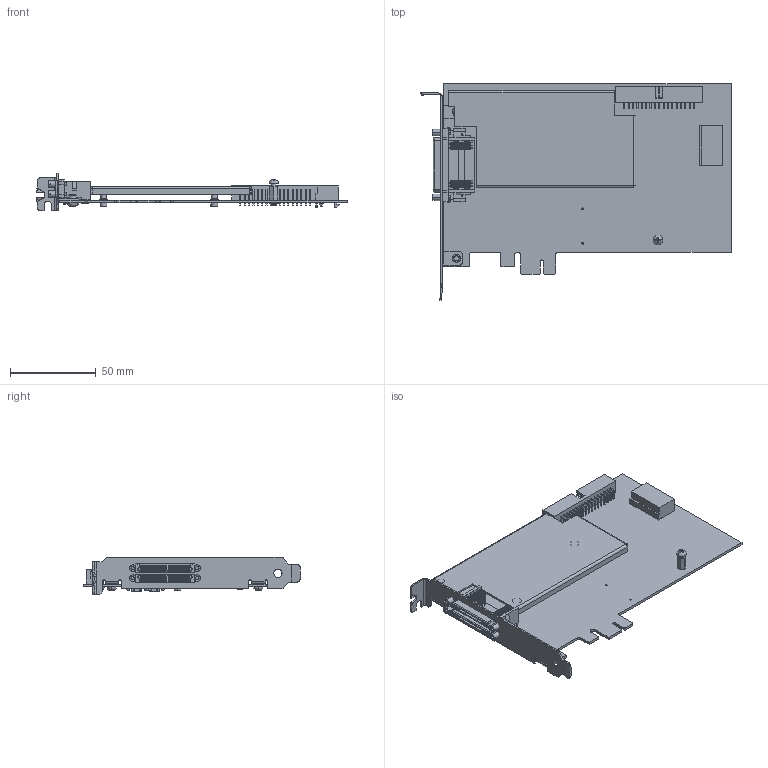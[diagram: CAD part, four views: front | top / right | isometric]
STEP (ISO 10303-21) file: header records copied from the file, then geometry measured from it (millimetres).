
FILE_DESCRIPTION((''),'2;1');
FILE_NAME('PCIE_X-SERIES_2VHDCI','2011-04-18T',('dkendric'),(''),'PRO/ENGINEER BY PARAMETRIC TECHNOLOGY CORPORATION, 2010230','PRO/ENGINEER BY PARAMETRIC TECHNOLOGY CORPORATION, 2010230','');
FILE_SCHEMA(('CONFIG_CONTROL_DESIGN'));
Products named in the file (1): PCIE_X-SERIES_2VHDCI
Bounding box: 180.92 x 126.32 x 21.59 mm (x, y, z)
Volume: 42439.9 mm3; surface area: 62779.3 mm2
Topology: 1 solids, 5 shells, 3588 faces, 9904 edges, 6387 vertices
Faces by surface type: plane 2954, cylinder 520, cone 44, bspline 36, sphere 22, torus 12
Entity records: 114835 total; most frequent: CARTESIAN_POINT 21938, ORIENTED_EDGE 19776, DIRECTION 18168, EDGE_CURVE 9888, VECTOR 8544, LINE 8544, VERTEX_POINT 6463, AXIS2_PLACEMENT_3D 4812
